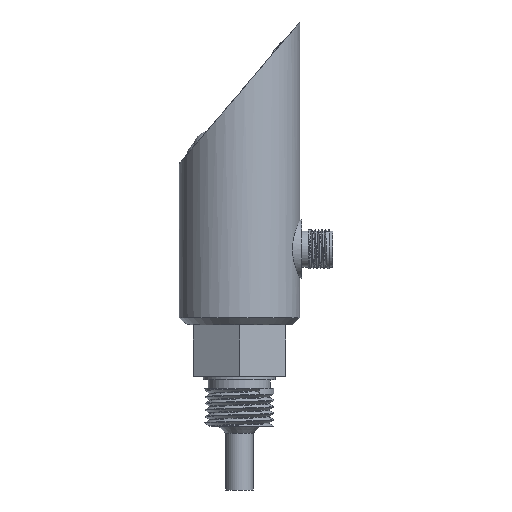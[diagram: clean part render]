
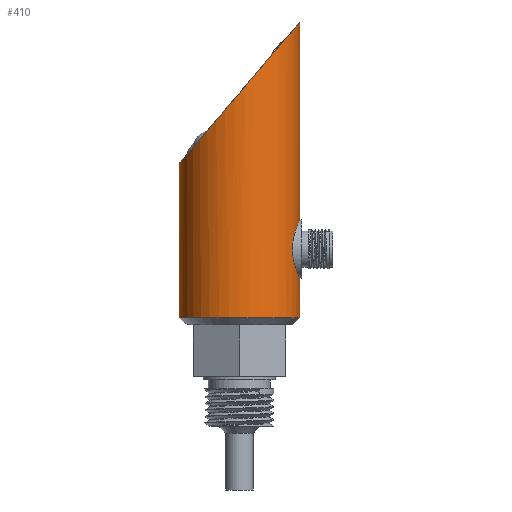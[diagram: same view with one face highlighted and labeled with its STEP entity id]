
A CAD part, front view. The second image highlights one B-rep face of the part: STEP entity #410.
In plain terms, the highlighted cylindrical face has radius 17.5 mm (diameter 35 mm), a full revolution.
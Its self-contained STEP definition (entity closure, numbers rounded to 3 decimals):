
#121=CYLINDRICAL_SURFACE('',#2838,17.5);
#137=ELLIPSE('',#2830,27.001,17.5);
#155=FACE_BOUND('',#856,.T.);
#156=FACE_BOUND('',#857,.T.);
#157=FACE_BOUND('',#858,.T.);
#289=B_SPLINE_CURVE_WITH_KNOTS('',3,(#4203,#4204,#4205,#4206,#4207,#4208,
#4209,#4210,#4211,#4212,#4213,#4214,#4215,#4216,#4217,#4218,#4219,#4220),
 .UNSPECIFIED.,.T.,.F.,(2,2,2,2,2,2,2,2,2,2,2),(-0.125,0.,0.125,0.25,0.375,
0.5,0.625,0.75,0.875,1.,1.125),.UNSPECIFIED.);
#410=ADVANCED_FACE('',(#155,#156,#157),#121,.T.);
#856=EDGE_LOOP('',(#1203));
#857=EDGE_LOOP('',(#1204));
#858=EDGE_LOOP('',(#1205));
#1053=CIRCLE('',#2837,17.5);
#1203=ORIENTED_EDGE('',*,*,#2206,.T.);
#1204=ORIENTED_EDGE('',*,*,#2224,.F.);
#1205=ORIENTED_EDGE('',*,*,#2225,.T.);
#1946=VERTEX_POINT('',#4031);
#1963=VERTEX_POINT('',#4202);
#1964=VERTEX_POINT('',#4221);
#2206=EDGE_CURVE('',#1946,#1946,#137,.T.);
#2224=EDGE_CURVE('',#1963,#1963,#1053,.T.);
#2225=EDGE_CURVE('',#1964,#1964,#289,.T.);
#2830=AXIS2_PLACEMENT_3D('',#4030,#3046,#3047);
#2837=AXIS2_PLACEMENT_3D('',#4201,#3071,#3072);
#2838=AXIS2_PLACEMENT_3D('',#4222,#3073,#3074);
#3046=DIRECTION('',(0.762,0.,-0.648));
#3047=DIRECTION('',(0.648,0.,0.762));
#3071=DIRECTION('',(0.,0.,-1.));
#3072=DIRECTION('',(-1.,0.,0.));
#3073=DIRECTION('',(0.,0.,1.));
#3074=DIRECTION('',(1.,0.,0.));
#4030=CARTESIAN_POINT('',(0.,0.,65.438));
#4031=CARTESIAN_POINT('',(17.5,0.,86.));
#4201=CARTESIAN_POINT('',(0.,0.,0.));
#4202=CARTESIAN_POINT('',(-17.5,0.,0.));
#4203=CARTESIAN_POINT('',(17.5,2.284,11.5));
#4204=CARTESIAN_POINT('',(17.5,-2.284,11.5));
#4205=CARTESIAN_POINT('',(16.998,-4.472,12.45));
#4206=CARTESIAN_POINT('',(15.871,-7.554,15.535));
#4207=CARTESIAN_POINT('',(15.3,-8.495,17.724));
#4208=CARTESIAN_POINT('',(15.294,-8.505,22.24));
#4209=CARTESIAN_POINT('',(15.867,-7.562,24.454));
#4210=CARTESIAN_POINT('',(16.996,-4.481,27.546));
#4211=CARTESIAN_POINT('',(17.497,-2.273,28.494));
#4212=CARTESIAN_POINT('',(17.503,2.231,28.506));
#4213=CARTESIAN_POINT('',(17.003,4.457,27.562));
#4214=CARTESIAN_POINT('',(15.87,7.558,24.465));
#4215=CARTESIAN_POINT('',(15.3,8.495,22.267));
#4216=CARTESIAN_POINT('',(15.294,8.505,17.77));
#4217=CARTESIAN_POINT('',(15.863,7.574,15.558));
#4218=CARTESIAN_POINT('',(17.002,4.464,12.439));
#4219=CARTESIAN_POINT('',(17.5,2.284,11.5));
#4220=CARTESIAN_POINT('',(17.5,-2.284,11.5));
#4221=CARTESIAN_POINT('',(17.5,0.,11.5));
#4222=CARTESIAN_POINT('',(0.,0.,0.));
